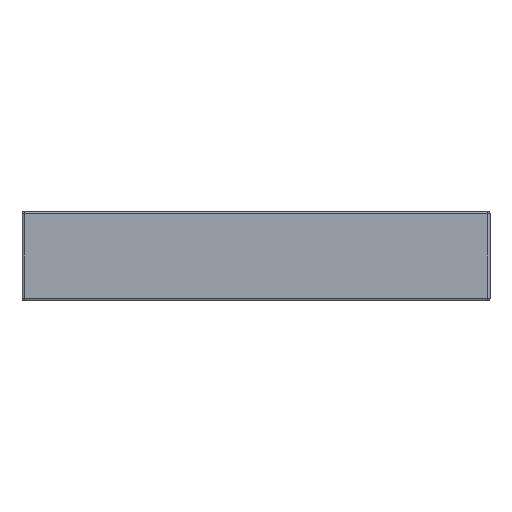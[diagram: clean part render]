
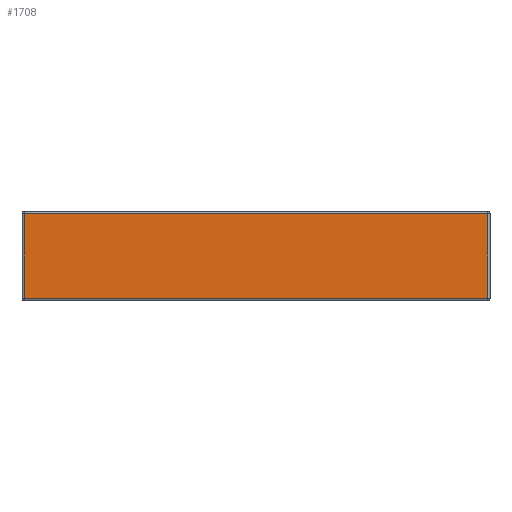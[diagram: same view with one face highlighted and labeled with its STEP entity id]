
A CAD part, front view. The second image highlights one B-rep face of the part: STEP entity #1708.
In plain terms, the highlighted planar face has unit normal (0, -1, 0).
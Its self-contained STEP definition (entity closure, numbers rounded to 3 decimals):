
#263=PLANE('',#1893);
#298=FACE_OUTER_BOUND('',#443,.T.);
#443=EDGE_LOOP('',(#1318,#1319,#1320,#1321));
#594=LINE('',#2711,#691);
#596=LINE('',#2729,#693);
#598=LINE('',#2732,#695);
#600=LINE('',#2735,#697);
#691=VECTOR('',#2170,10.);
#693=VECTOR('',#2194,10.);
#695=VECTOR('',#2198,10.);
#697=VECTOR('',#2202,10.);
#812=VERTEX_POINT('',#2689);
#817=VERTEX_POINT('',#2702);
#820=VERTEX_POINT('',#2715);
#821=VERTEX_POINT('',#2719);
#982=EDGE_CURVE('',#812,#817,#594,.T.);
#991=EDGE_CURVE('',#817,#821,#596,.T.);
#993=EDGE_CURVE('',#821,#820,#598,.T.);
#995=EDGE_CURVE('',#820,#812,#600,.T.);
#1318=ORIENTED_EDGE('',*,*,#982,.F.);
#1319=ORIENTED_EDGE('',*,*,#995,.F.);
#1320=ORIENTED_EDGE('',*,*,#993,.F.);
#1321=ORIENTED_EDGE('',*,*,#991,.F.);
#1708=ADVANCED_FACE('',(#298),#263,.T.);
#1893=AXIS2_PLACEMENT_3D('',#2803,#2276,#2277);
#2170=DIRECTION('',(-1.,0.,0.));
#2194=DIRECTION('',(0.,0.,1.));
#2198=DIRECTION('',(1.,0.,0.));
#2202=DIRECTION('',(0.,0.,-1.));
#2276=DIRECTION('center_axis',(0.,-1.,0.));
#2277=DIRECTION('ref_axis',(0.,0.,-1.));
#2689=CARTESIAN_POINT('',(152.,-7.55,0.95));
#2702=CARTESIAN_POINT('',(53.,-7.55,0.95));
#2711=CARTESIAN_POINT('',(52.5,-7.55,0.95));
#2715=CARTESIAN_POINT('',(152.,-7.55,19.044));
#2719=CARTESIAN_POINT('',(53.,-7.55,19.044));
#2729=CARTESIAN_POINT('',(53.,-7.55,14.772));
#2732=CARTESIAN_POINT('',(52.5,-7.55,19.044));
#2735=CARTESIAN_POINT('',(152.,-7.55,14.772));
#2803=CARTESIAN_POINT('Origin',(52.5,-7.55,19.544));
